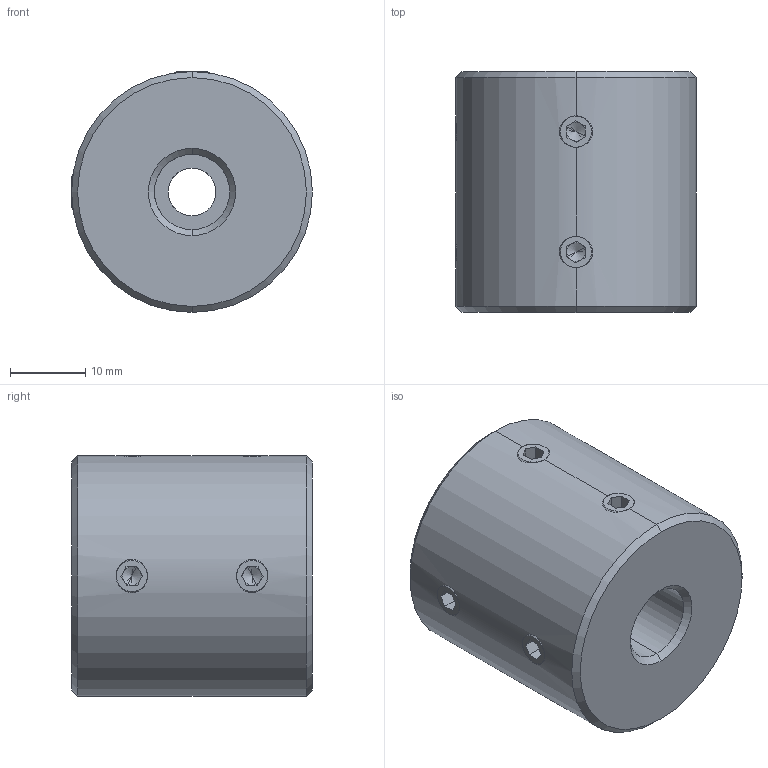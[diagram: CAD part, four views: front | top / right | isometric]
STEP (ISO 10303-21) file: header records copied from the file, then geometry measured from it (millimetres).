
FILE_DESCRIPTION (( 'STEP AP214' ), '1' );
FILE_NAME ('LL-D-D32L32-6.35-10½¨Ä£.STEP', '2022-07-22T11:21:54', ( '' ), ( '' ), 'SwSTEP 2.0', 'SolidWorks 2022', '' );
FILE_SCHEMA (( 'AUTOMOTIVE_DESIGN' ));
Length unit declared in the file: millimetre
Products named in the file (1): LL-D-D32L32-6.35-10膘耀
Bounding box: 32 x 32 x 32 mm (x, y, z)
Volume: 23617.7 mm3; surface area: 5785.7 mm2
Topology: 1 solids, 1 shells, 113 faces, 286 edges, 176 vertices
Faces by surface type: plane 59, cone 32, cylinder 22
Entity records: 3750 total; most frequent: CARTESIAN_POINT 1040, DIRECTION 558, ORIENTED_EDGE 556, EDGE_CURVE 278, AXIS2_PLACEMENT_3D 206, VERTEX_POINT 176, VECTOR 146, LINE 146
